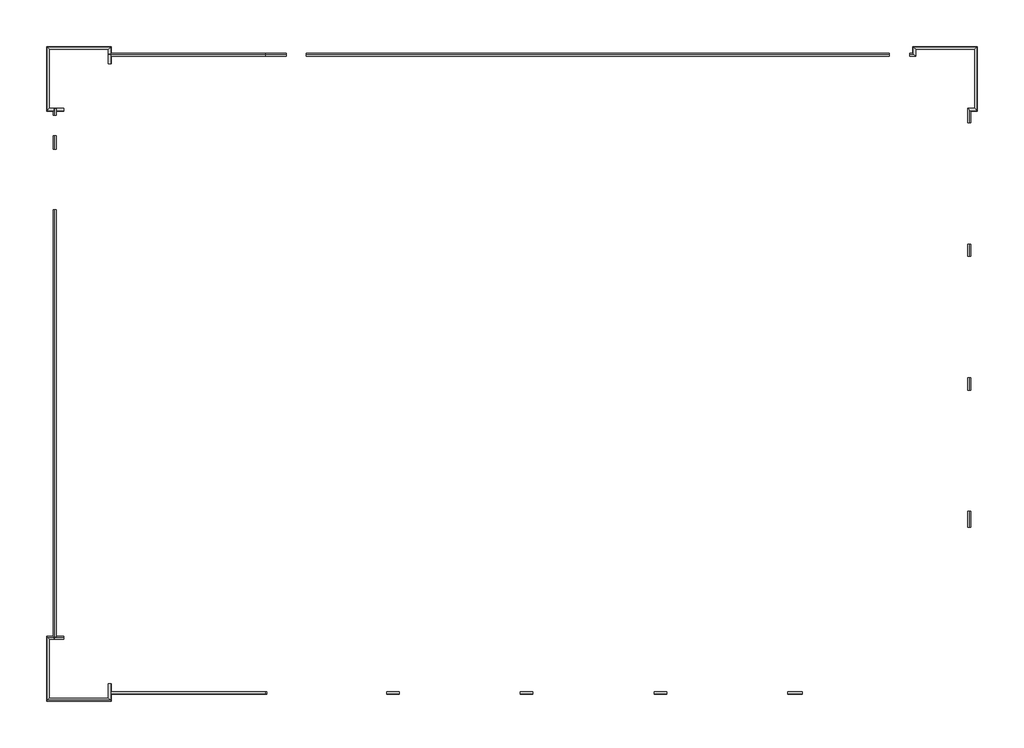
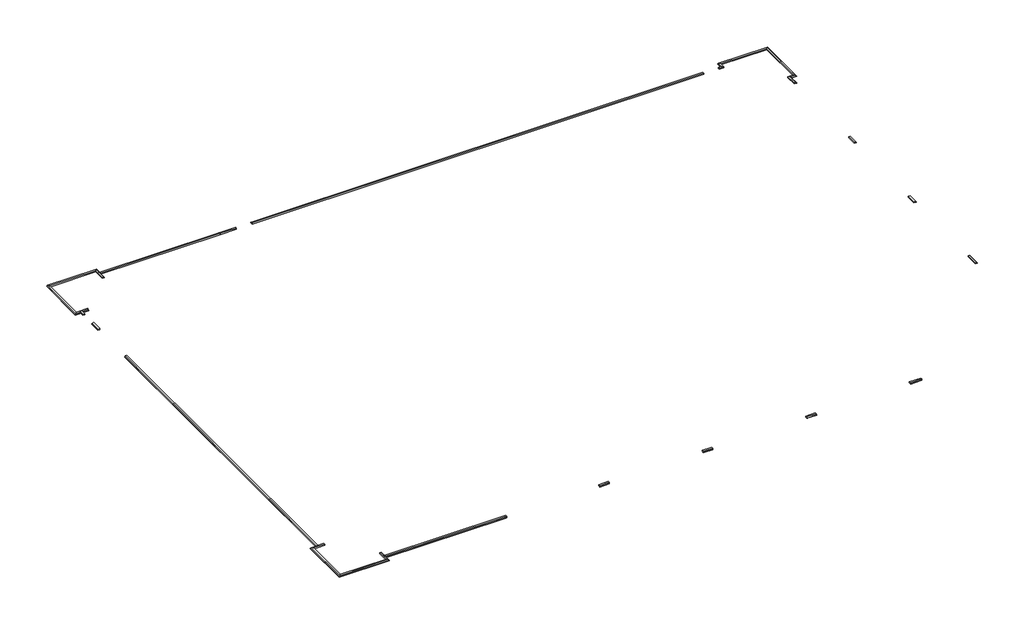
# One storey: 18 proxies.
"""IFC4 building model written with IfcOpenShell, lengths in millimetres."""

import ifcopenshell
import ifcopenshell.guid

model = None  # the IFC model being written
_history = None  # IfcOwnerHistory: only IFC2X3 demands one
_inside = {}  # id of a spatial element -> (the spatial element, [elements in it])
_under = {}  # id of a project, library or spatial element -> (it, [spatial elements below it])
_declared = {}  # id of a project -> (the project, [libraries it declares])
_typed = {}  # id of a type object -> (the type object, [elements of that type])
_made_of = {}  # id of a material, layer set ... -> (it, [elements and type objects made of it])


def new_model(schema):
    """Start an empty IFC model of exactly this schema.

    Asked for "IFC4X3", IfcOpenShell would pick the latest addendum, in which some entities
    have other attributes; the version numbers below select the first issue.
    IFC2X3 requires an IfcOwnerHistory on every rooted entity: one is made here for all.
    """
    global model, _history
    if schema == "IFC4X3":
        model = ifcopenshell.file(schema_version=(4, 3, 0, 0))
    else:
        model = ifcopenshell.file(schema=schema)
    _inside.clear()
    _under.clear()
    _declared.clear()
    _typed.clear()
    _made_of.clear()
    _history = None
    if model.schema == "IFC2X3":
        org = make("IfcOrganization", Name="unknown")
        user = make(
            "IfcPersonAndOrganization",
            ThePerson=make("IfcPerson", FamilyName="unknown"),
            TheOrganization=org,
        )
        app = make(
            "IfcApplication",
            ApplicationDeveloper=org,
            Version="unknown",
            ApplicationFullName="unknown",
            ApplicationIdentifier="unknown",
        )
        _history = make(
            "IfcOwnerHistory",
            OwningUser=user,
            OwningApplication=app,
            ChangeAction="ADDED",
            CreationDate=0,
        )
    return model


def make(cls, **values):
    """One entity of the class cls with the attributes given. An attribute that is None is left unset."""
    return model.create_entity(
        cls, **{name: value for name, value in values.items() if value is not None}
    )


def rooted(cls, **values):
    """An entity with a GlobalId (a new one), such as an element, a storey or a relation."""
    return make(cls, GlobalId=ifcopenshell.guid.new(), OwnerHistory=_history, **values)


def si_unit(unit_type, name, prefix=None):
    """IfcSIUnit, for example si_unit("LENGTHUNIT", "METRE", prefix="MILLI")."""
    return make("IfcSIUnit", UnitType=unit_type, Prefix=prefix, Name=name)


def assignment(units):
    """IfcUnitAssignment: the units of a project."""
    return None if units is None else make("IfcUnitAssignment", Units=units)


def point(xyz):
    """IfcCartesianPoint."""
    return None if xyz is None else make("IfcCartesianPoint", Coordinates=xyz)


def direction(xyz):
    """IfcDirection."""
    return None if xyz is None else make("IfcDirection", DirectionRatios=xyz)


def frame(location, z_axis=None, x_axis=None):
    """IfcAxis2Placement3D, a coordinate frame: its origin and axes. An axis left out is left unset."""
    return make(
        "IfcAxis2Placement3D",
        Location=point(location),
        Axis=direction(z_axis),
        RefDirection=direction(x_axis),
    )


def origin():
    """The frame at (0, 0, 0) with its axes left unset."""
    return frame((0.0, 0.0, 0.0))


def place(relative_to, where):
    """IfcLocalPlacement: puts the frame where relative to a parent placement (None: the world)."""
    return make(
        "IfcLocalPlacement", PlacementRelTo=relative_to, RelativePlacement=where
    )


def context(
    kind, dimensions, precision=None, world=None, true_north=None, identifier=None
):
    """IfcGeometricRepresentationContext, for example the 3D "Model" context."""
    return make(
        "IfcGeometricRepresentationContext",
        ContextIdentifier=identifier,
        ContextType=kind,
        CoordinateSpaceDimension=dimensions,
        Precision=precision,
        WorldCoordinateSystem=world,
        TrueNorth=true_north,
    )


def project(units=None, contexts=None):
    """IfcProject with its units and contexts."""
    return rooted(
        "IfcProject",
        Name="project",
        RepresentationContexts=contexts,
        UnitsInContext=assignment(units),
    )


def spatial(cls, under=None, at=None, **own):
    """A site, building, storey or space (cls), placed at a placement, below another one or the project."""
    s = rooted(cls, ObjectPlacement=at, **own)
    if under is not None:
        _under.setdefault(under.id(), (under, []))[1].append(s)
    return s


def faces_of(points, faces, orient=None, outer=None):
    """IfcFace entities. A face is a list of loops; a loop is a list of indices into points, from 0.

    orient and outer hold one flag for each loop. By default every Orientation is true, the
    first loop of a face is its IfcFaceOuterBound and the others are IfcFaceBound.
    """
    made = []
    for i, loops in enumerate(faces):
        bounds = []
        for j, loop in enumerate(loops):
            is_outer = j == 0 if outer is None else outer[i][j]
            bounds.append(
                make(
                    "IfcFaceOuterBound" if is_outer else "IfcFaceBound",
                    Bound=make("IfcPolyLoop", Polygon=[points[k] for k in loop]),
                    Orientation=True if orient is None else orient[i][j],
                )
            )
        made.append(make("IfcFace", Bounds=bounds))
    return made


def faceted_brep(points, faces, orient=None, outer=None, voids=None):
    """IfcFacetedBrep: a solid bounded by flat faces; with voids (closed shells), ...WithVoids."""
    shared = [point(p) for p in points]
    hull = make("IfcClosedShell", CfsFaces=faces_of(shared, faces, orient, outer))
    if voids is None:
        return make("IfcFacetedBrep", Outer=hull)
    return make(
        "IfcFacetedBrepWithVoids",
        Outer=hull,
        Voids=[
            make(cls, CfsFaces=faces_of(shared, fs, o, b)) for cls, fs, o, b in voids
        ],
    )


def shape(context_of_items, identifier, shape_type, items):
    """IfcShapeRepresentation: the items that make up one representation, for example the "Body"."""
    return make(
        "IfcShapeRepresentation",
        ContextOfItems=context_of_items,
        RepresentationIdentifier=identifier,
        RepresentationType=shape_type,
        Items=items,
    )


def made_of(thing, what):
    """Note that an element or type object is made of a material, layer set ...; save() writes the relation."""
    if what is not None:
        _made_of.setdefault(what.id(), (what, []))[1].append(thing)
    return thing


def element(
    cls,
    number,
    at=None,
    inside=None,
    cuts=None,
    type_object=None,
    material=None,
    context=None,
    identifier="Body",
    shape_type=None,
    held_by="IfcProductDefinitionShape",
    body=None,
    shapes=None,
    **own,
):
    """One element of the class cls, such as IfcWall. Its Tag is "e" and its number.

    at: its placement. inside: the storey or other place that contains it. cuts: it is an
    opening in that element (IfcRelVoidsElement). A single representation is given by context,
    identifier, shape_type and body (its items); several are given by shapes. held_by: the class
    of the entity that holds the representations. save() writes the other relations.
    """
    e = rooted(cls, Tag="e%d" % number, ObjectPlacement=at, **own)
    if body is not None:
        shapes = [shape(context, identifier, shape_type, body)]
    if shapes is not None:
        e.Representation = make(held_by, Representations=shapes)
    if inside is not None:
        _inside.setdefault(inside.id(), (inside, []))[1].append(e)
    if cuts is not None:
        rooted(
            "IfcRelVoidsElement", RelatingBuildingElement=cuts, RelatedOpeningElement=e
        )
    if type_object is not None:
        _typed.setdefault(type_object.id(), (type_object, []))[1].append(e)
    return made_of(e, material)


def aggregate(whole, parts):
    """IfcRelAggregates: a whole, such as a stair, and the parts it consists of."""
    return rooted("IfcRelAggregates", RelatingObject=whole, RelatedObjects=parts)


def save(model, path):
    """Write the relations noted so far, then the file.

    IfcRelAggregates (storeys below a building ...), IfcRelContainedInSpatialStructure (elements
    in a storey), IfcRelDefinesByType, IfcRelAssociatesMaterial and IfcRelDeclares: one each for
    every whole, place, type object, material and project.
    """
    for whole, parts in _under.values():
        aggregate(whole, parts)
    for where, things in _inside.values():
        rooted(
            "IfcRelContainedInSpatialStructure",
            RelatedElements=things,
            RelatingStructure=where,
        )
    for kind, things in _typed.values():
        rooted("IfcRelDefinesByType", RelatedObjects=things, RelatingType=kind)
    for what, things in _made_of.values():
        rooted("IfcRelAssociatesMaterial", RelatedObjects=things, RelatingMaterial=what)
    for by, libraries in _declared.values():
        rooted("IfcRelDeclares", RelatingContext=by, RelatedDefinitions=libraries)
    model.write(path)


model = new_model("IFC4")

# Units and contexts
model_context = context("Model", 3, world=origin())
ifc_project = project(units=[si_unit("LENGTHUNIT", "METRE", prefix="MILLI")], contexts=[model_context])

# Site, building, storey
site = spatial("IfcSite", under=ifc_project)
building = spatial("IfcBuilding", under=site)
storey = spatial("IfcBuildingStorey", under=building, Name="CMU Watertable", Elevation=914.4)

# Proxies
placement = place(None, origin())
element("IfcBuildingElementProxy", 1, Name="Wall Sweeps", at=placement, inside=storey, context=model_context, shape_type="Brep", body=[
    faceted_brep([(-20031.8727721, 14336.3436943, 984.25), (-20031.8727721, 14428.4186943, 984.25), (-20031.8727721, 14463.3436943, 939.8), (-20031.8727721, 14463.3436943, 914.4), (-20031.8727721, 14447.4686943, 914.4), (-20031.8727721, 14336.3436943, 914.4), (-12953.2102721, 14336.3436943, 984.25), (-12953.2102721, 14336.3436943, 914.4), (-12953.2102721, 14345.8686943, 914.4), (-12953.2102721, 14447.4686943, 914.4), (-12953.2102721, 14463.3436943, 914.4), (-12953.2102721, 14463.3436943, 939.8), (-12953.2102721, 14428.4186943, 984.25)], [[[0, 1, 2, 3, 4, 5]], [[6, 7, 8, 9, 10, 11, 12]], [[1, 0, 6, 12]], [[2, 1, 12, 11]], [[3, 2, 11, 10]], [[5, 4, 3, 10, 9, 8, 7]], [[0, 5, 7, 6]]]),
])
element("IfcBuildingElementProxy", 2, Name="Wall Sweeps", at=placement, inside=storey, context=model_context, shape_type="Brep", body=[
    faceted_brep([(18820.6022279, 11967.7936943, 984.25), (18912.6772279, 11875.7186943, 984.25), (18947.6022279, 11840.7936943, 939.8), (18947.6022279, 11840.7936943, 914.4), (18820.6022279, 11967.7936943, 914.4), (18820.6022279, 11321.6811943, 984.25), (18820.6022279, 11321.6811943, 914.4), (18931.7272279, 11321.6811943, 914.4), (18947.6022279, 11321.6811943, 914.4), (18947.6022279, 11321.6811943, 939.8), (18912.6772279, 11321.6811943, 984.25)], [[[0, 1, 2, 3, 4]], [[5, 6, 7, 8, 9, 10]], [[1, 0, 5, 10]], [[2, 1, 10, 9]], [[3, 2, 9, 8]], [[4, 3, 8, 7, 6]], [[0, 4, 6, 5]]]),
    faceted_brep([(18820.6022279, 5835.2811943, 984.25), (18912.6772279, 5835.2811943, 984.25), (18947.6022279, 5835.2811943, 939.8), (18947.6022279, 5835.2811943, 914.4), (18931.7272279, 5835.2811943, 914.4), (18820.6022279, 5835.2811943, 914.4), (18820.6022279, 5276.4811943, 984.25), (18820.6022279, 5276.4811943, 914.4), (18931.7272279, 5276.4811943, 914.4), (18947.6022279, 5276.4811943, 914.4), (18947.6022279, 5276.4811943, 939.8), (18912.6772279, 5276.4811943, 984.25)], [[[0, 1, 2, 3, 4, 5]], [[6, 7, 8, 9, 10, 11]], [[1, 0, 6, 11]], [[2, 1, 11, 10]], [[3, 2, 10, 9]], [[5, 4, 3, 9, 8, 7]], [[0, 5, 7, 6]]]),
    faceted_brep([(18820.6022279, -209.9188057, 984.25), (18912.6772279, -209.9188057, 984.25), (18947.6022279, -209.9188057, 939.8), (18947.6022279, -209.9188057, 914.4), (18931.7272279, -209.9188057, 914.4), (18820.6022279, -209.9188057, 914.4), (18820.6022279, -768.7188057, 984.25), (18820.6022279, -768.7188057, 914.4), (18931.7272279, -768.7188057, 914.4), (18947.6022279, -768.7188057, 914.4), (18947.6022279, -768.7188057, 939.8), (18912.6772279, -768.7188057, 984.25)], [[[0, 1, 2, 3, 4, 5]], [[6, 7, 8, 9, 10, 11]], [[1, 0, 6, 11]], [[2, 1, 11, 10]], [[3, 2, 10, 9]], [[5, 4, 3, 9, 8, 7]], [[0, 5, 7, 6]]]),
    faceted_brep([(18820.6022279, -6255.1188057, 984.25), (18912.6772279, -6255.1188057, 984.25), (18947.6022279, -6255.1188057, 939.8), (18947.6022279, -6255.1188057, 914.4), (18931.7272279, -6255.1188057, 914.4), (18820.6022279, -6255.1188057, 914.4), (18820.6022279, -6969.1417889, 984.25), (18820.6022279, -6969.1417889, 914.4), (18931.7272279, -6969.1417889, 914.4), (18947.6022279, -6969.1417889, 914.4), (18947.6022279, -6969.1417889, 939.8), (18912.6772279, -6969.1417889, 984.25)], [[[0, 1, 2, 3, 4, 5]], [[6, 7, 8, 9, 10, 11]], [[1, 0, 6, 11]], [[2, 1, 11, 10]], [[3, 2, 10, 9]], [[5, 4, 3, 9, 8, 7]], [[0, 5, 7, 6]]]),
])
element("IfcBuildingElementProxy", 3, Name="Wall Sweeps", at=placement, inside=storey, context=model_context, shape_type="Brep", body=[
    faceted_brep([(11340.2095287, -14397.4063057, 984.25), (11340.2095287, -14489.4813057, 984.25), (11340.2095287, -14524.4063057, 939.8), (11340.2095287, -14524.4063057, 914.4), (11340.2095287, -14508.5313057, 914.4), (11340.2095287, -14397.4063057, 914.4), (10678.3147279, -14397.4063057, 984.25), (10678.3147279, -14397.4063057, 914.4), (10678.3147279, -14508.5313057, 914.4), (10678.3147279, -14524.4063057, 914.4), (10678.3147279, -14524.4063057, 939.8), (10678.3147279, -14489.4813057, 984.25)], [[[0, 1, 2, 3, 4, 5]], [[6, 7, 8, 9, 10, 11]], [[1, 0, 6, 11]], [[2, 1, 11, 10]], [[3, 2, 10, 9]], [[5, 4, 3, 9, 8, 7]], [[0, 5, 7, 6]]]),
    faceted_brep([(5191.9147279, -14397.4063057, 984.25), (5191.9147279, -14489.4813057, 984.25), (5191.9147279, -14524.4063057, 939.8), (5191.9147279, -14524.4063057, 914.4), (5191.9147279, -14508.5313057, 914.4), (5191.9147279, -14397.4063057, 914.4), (4633.1147279, -14397.4063057, 984.25), (4633.1147279, -14397.4063057, 914.4), (4633.1147279, -14508.5313057, 914.4), (4633.1147279, -14524.4063057, 914.4), (4633.1147279, -14524.4063057, 939.8), (4633.1147279, -14489.4813057, 984.25)], [[[0, 1, 2, 3, 4, 5]], [[6, 7, 8, 9, 10, 11]], [[1, 0, 6, 11]], [[2, 1, 11, 10]], [[3, 2, 10, 9]], [[5, 4, 3, 9, 8, 7]], [[0, 5, 7, 6]]]),
    faceted_brep([(-853.2852721, -14397.4063057, 984.25), (-853.2852721, -14489.4813057, 984.25), (-853.2852721, -14524.4063057, 939.8), (-853.2852721, -14524.4063057, 914.4), (-853.2852721, -14508.5313057, 914.4), (-853.2852721, -14397.4063057, 914.4), (-1412.0852721, -14397.4063057, 984.25), (-1412.0852721, -14397.4063057, 914.4), (-1412.0852721, -14508.5313057, 914.4), (-1412.0852721, -14524.4063057, 914.4), (-1412.0852721, -14524.4063057, 939.8), (-1412.0852721, -14489.4813057, 984.25)], [[[0, 1, 2, 3, 4, 5]], [[6, 7, 8, 9, 10, 11]], [[1, 0, 6, 11]], [[2, 1, 11, 10]], [[3, 2, 10, 9]], [[5, 4, 3, 9, 8, 7]], [[0, 5, 7, 6]]]),
    faceted_brep([(-6898.4852721, -14397.4063057, 984.25), (-6898.4852721, -14489.4813057, 984.25), (-6898.4852721, -14524.4063057, 939.8), (-6898.4852721, -14524.4063057, 914.4), (-6898.4852721, -14508.5313057, 914.4), (-6898.4852721, -14397.4063057, 914.4), (-7457.2852721, -14397.4063057, 984.25), (-7457.2852721, -14397.4063057, 914.4), (-7457.2852721, -14508.5313057, 914.4), (-7457.2852721, -14524.4063057, 914.4), (-7457.2852721, -14524.4063057, 939.8), (-7457.2852721, -14489.4813057, 984.25)], [[[0, 1, 2, 3, 4, 5]], [[6, 7, 8, 9, 10, 11]], [[1, 0, 6, 11]], [[2, 1, 11, 10]], [[3, 2, 10, 9]], [[5, 4, 3, 9, 8, 7]], [[0, 5, 7, 6]]]),
    faceted_brep([(-12883.3602721, -14397.4063057, 984.25), (-12883.3602721, -14489.4813057, 984.25), (-12883.3602721, -14524.4063057, 939.8), (-12883.3602721, -14524.4063057, 914.4), (-12883.3602721, -14508.5313057, 914.4), (-12883.3602721, -14397.4063057, 914.4), (-12953.2102721, -14397.4063057, 984.25), (-12953.2102721, -14397.4063057, 914.4), (-12953.2102721, -14508.5313057, 914.4), (-12953.2102721, -14524.4063057, 914.4), (-12953.2102721, -14524.4063057, 939.8), (-12953.2102721, -14489.4813057, 984.25)], [[[0, 1, 2, 3, 4, 5]], [[6, 7, 8, 9, 10, 11]], [[1, 0, 6, 11]], [[2, 1, 11, 10]], [[3, 2, 10, 9]], [[5, 4, 3, 9, 8, 7]], [[0, 5, 7, 6]]]),
])
element("IfcBuildingElementProxy", 4, Name="Wall Sweeps", at=placement, inside=storey, context=model_context, shape_type="Brep", body=[
    faceted_brep([(-11091.0727721, 14336.3436943, 984.25), (-11091.0727721, 14428.4186943, 984.25), (-11091.0727721, 14463.3436943, 939.8), (-11091.0727721, 14463.3436943, 914.4), (-11091.0727721, 14447.4686943, 914.4), (-11091.0727721, 14336.3436943, 914.4), (15274.1272279, 14336.3436943, 984.25), (15274.1272279, 14336.3436943, 914.4), (15274.1272279, 14447.4686943, 914.4), (15274.1272279, 14463.3436943, 914.4), (15274.1272279, 14463.3436943, 939.8), (15274.1272279, 14428.4186943, 984.25)], [[[0, 1, 2, 3, 4, 5]], [[6, 7, 8, 9, 10, 11]], [[1, 0, 6, 11]], [[2, 1, 11, 10]], [[3, 2, 10, 9]], [[5, 4, 3, 9, 8, 7]], [[0, 5, 7, 6]]]),
    faceted_brep([(16188.5272279, 14336.3436943, 984.25), (16188.5272279, 14428.4186943, 984.25), (16188.5272279, 14463.3436943, 939.8), (16188.5272279, 14463.3436943, 914.4), (16188.5272279, 14447.4686943, 914.4), (16188.5272279, 14336.3436943, 914.4), (16452.0522279, 14336.3436943, 984.25), (16452.0522279, 14336.3436943, 914.4), (16325.0522279, 14463.3436943, 914.4), (16325.0522279, 14463.3436943, 939.8), (16359.9772279, 14428.4186943, 984.25)], [[[0, 1, 2, 3, 4, 5]], [[6, 7, 8, 9, 10]], [[1, 0, 6, 10]], [[2, 1, 10, 9]], [[3, 2, 9, 8]], [[5, 4, 3, 8, 7]], [[0, 5, 7, 6]]]),
    faceted_brep([(-12953.2102721, 14336.3436943, 984.25), (-12953.2102721, 14428.4186943, 984.25), (-12953.2102721, 14463.3436943, 939.8), (-12953.2102721, 14463.3436943, 914.4), (-12953.2102721, 14447.4686943, 914.4), (-12953.2102721, 14345.8686943, 914.4), (-12953.2102721, 14336.3436943, 914.4), (-12005.4727721, 14336.3436943, 984.25), (-12005.4727721, 14336.3436943, 914.4), (-12005.4727721, 14447.4686943, 914.4), (-12005.4727721, 14463.3436943, 914.4), (-12005.4727721, 14463.3436943, 939.8), (-12005.4727721, 14428.4186943, 984.25)], [[[0, 1, 2, 3, 4, 5, 6]], [[7, 8, 9, 10, 11, 12]], [[1, 0, 7, 12]], [[2, 1, 12, 11]], [[3, 2, 11, 10]], [[6, 5, 4, 3, 10, 9, 8]], [[0, 6, 8, 7]]]),
])
element("IfcBuildingElementProxy", 5, Name="Wall Sweeps", at=placement, inside=storey, context=model_context, shape_type="Brep", body=[
    faceted_brep([(-12953.2102721, -14397.4063057, 984.25), (-12953.2102721, -14489.4813057, 984.25), (-12953.2102721, -14524.4063057, 939.8), (-12953.2102721, -14524.4063057, 914.4), (-12953.2102721, -14508.5313057, 914.4), (-12953.2102721, -14406.9313057, 914.4), (-12953.2102721, -14397.4063057, 914.4), (-20031.8727721, -14397.4063057, 984.25), (-20031.8727721, -14397.4063057, 914.4), (-20031.8727721, -14508.5313057, 914.4), (-20031.8727721, -14524.4063057, 914.4), (-20031.8727721, -14524.4063057, 939.8), (-20031.8727721, -14489.4813057, 984.25)], [[[0, 1, 2, 3, 4, 5, 6]], [[7, 8, 9, 10, 11, 12]], [[1, 0, 7, 12]], [[2, 1, 12, 11]], [[3, 2, 11, 10]], [[6, 5, 4, 3, 10, 9, 8]], [[0, 6, 8, 7]]]),
])
element("IfcBuildingElementProxy", 6, Name="Wall Sweeps", at=placement, inside=storey, context=model_context, shape_type="Brep", body=[
    faceted_brep([(-20041.3977721, 13993.4436943, 984.25), (-20041.3977721, 13993.4436943, 914.4), (-19930.2727721, 13993.4436943, 914.4), (-19914.3977721, 13993.4436943, 914.4), (-19914.3977721, 13993.4436943, 939.8), (-19949.3227721, 13993.4436943, 984.25), (-20041.3977721, 14641.1436943, 984.25), (-19949.3227721, 14733.2186943, 984.25), (-19914.3977721, 14768.1436943, 939.8), (-19914.3977721, 14768.1436943, 914.4), (-20041.3977721, 14641.1436943, 914.4)], [[[0, 1, 2, 3, 4, 5]], [[6, 7, 8, 9, 10]], [[1, 0, 6, 10]], [[3, 2, 1, 10, 9]], [[4, 3, 9, 8]], [[5, 4, 8, 7]], [[0, 5, 7, 6]]]),
])
element("IfcBuildingElementProxy", 7, Name="Wall Sweeps", at=placement, inside=storey, context=model_context, shape_type="Brep", body=[
    faceted_brep([(-20041.3977721, 14641.1436943, 984.25), (-20041.3977721, 14641.1436943, 914.4), (-19914.3977721, 14768.1436943, 914.4), (-19914.3977721, 14768.1436943, 939.8), (-19949.3227721, 14733.2186943, 984.25), (-22714.7477721, 14641.1436943, 984.25), (-22806.8227721, 14733.2186943, 984.25), (-22841.7477721, 14768.1436943, 939.8), (-22841.7477721, 14768.1436943, 914.4), (-22714.7477721, 14641.1436943, 914.4)], [[[0, 1, 2, 3, 4]], [[5, 6, 7, 8, 9]], [[1, 0, 5, 9]], [[2, 1, 9, 8]], [[3, 2, 8, 7]], [[4, 3, 7, 6]], [[0, 4, 6, 5]]]),
])
element("IfcBuildingElementProxy", 8, Name="Wall Sweeps", at=placement, inside=storey, context=model_context, shape_type="Brep", body=[
    faceted_brep([(-22714.7477721, 14641.1436943, 984.25), (-22714.7477721, 14641.1436943, 914.4), (-22841.7477721, 14768.1436943, 914.4), (-22841.7477721, 14768.1436943, 939.8), (-22806.8227721, 14733.2186943, 984.25), (-22714.7477721, 11967.7936943, 984.25), (-22806.8227721, 11875.7186943, 984.25), (-22841.7477721, 11840.7936943, 939.8), (-22841.7477721, 11840.7936943, 914.4), (-22714.7477721, 11967.7936943, 914.4)], [[[0, 1, 2, 3, 4]], [[5, 6, 7, 8, 9]], [[1, 0, 5, 9]], [[2, 1, 9, 8]], [[3, 2, 8, 7]], [[4, 3, 7, 6]], [[0, 4, 6, 5]]]),
])
element("IfcBuildingElementProxy", 9, Name="Wall Sweeps", at=placement, inside=storey, context=model_context, shape_type="Brep", body=[
    faceted_brep([(-22714.7477721, 11967.7936943, 984.25), (-22714.7477721, 11967.7936943, 914.4), (-22841.7477721, 11840.7936943, 914.4), (-22841.7477721, 11840.7936943, 939.8), (-22806.8227721, 11875.7186943, 984.25), (-22067.0477721, 11967.7936943, 984.25), (-22067.0477721, 11875.7186943, 984.25), (-22067.0477721, 11840.7936943, 939.8), (-22067.0477721, 11840.7936943, 914.4), (-22067.0477721, 11856.6686943, 914.4), (-22067.0477721, 11967.7936943, 914.4)], [[[0, 1, 2, 3, 4]], [[5, 6, 7, 8, 9, 10]], [[1, 0, 5, 10]], [[2, 1, 10, 9, 8]], [[3, 2, 8, 7]], [[4, 3, 7, 6]], [[0, 4, 6, 5]]]),
])
element("IfcBuildingElementProxy", 10, Name="Wall Sweeps", at=placement, inside=storey, context=model_context, shape_type="Brep", body=[
    faceted_brep([(-20041.3977721, -14054.5063057, 984.25), (-19949.3227721, -14054.5063057, 984.25), (-19914.3977721, -14054.5063057, 939.8), (-19914.3977721, -14054.5063057, 914.4), (-19930.2727721, -14054.5063057, 914.4), (-20041.3977721, -14054.5063057, 914.4), (-20041.3977721, -14702.2063057, 984.25), (-20041.3977721, -14702.2063057, 914.4), (-19914.3977721, -14829.2063057, 914.4), (-19914.3977721, -14829.2063057, 939.8), (-19949.3227721, -14794.2813057, 984.25)], [[[0, 1, 2, 3, 4, 5]], [[6, 7, 8, 9, 10]], [[1, 0, 6, 10]], [[2, 1, 10, 9]], [[3, 2, 9, 8]], [[5, 4, 3, 8, 7]], [[0, 5, 7, 6]]]),
])
element("IfcBuildingElementProxy", 11, Name="Wall Sweeps", at=placement, inside=storey, context=model_context, shape_type="Brep", body=[
    faceted_brep([(-20041.3977721, -14702.2063057, 984.25), (-19949.3227721, -14794.2813057, 984.25), (-19914.3977721, -14829.2063057, 939.8), (-19914.3977721, -14829.2063057, 914.4), (-20041.3977721, -14702.2063057, 914.4), (-22714.7477721, -14702.2063057, 984.25), (-22714.7477721, -14702.2063057, 914.4), (-22841.7477721, -14829.2063057, 914.4), (-22841.7477721, -14829.2063057, 939.8), (-22806.8227721, -14794.2813057, 984.25)], [[[0, 1, 2, 3, 4]], [[5, 6, 7, 8, 9]], [[1, 0, 5, 9]], [[2, 1, 9, 8]], [[3, 2, 8, 7]], [[4, 3, 7, 6]], [[0, 4, 6, 5]]]),
])
element("IfcBuildingElementProxy", 12, Name="Wall Sweeps", at=placement, inside=storey, context=model_context, shape_type="Brep", body=[
    faceted_brep([(-22714.7477721, -14702.2063057, 984.25), (-22806.8227721, -14794.2813057, 984.25), (-22841.7477721, -14829.2063057, 939.8), (-22841.7477721, -14829.2063057, 914.4), (-22714.7477721, -14702.2063057, 914.4), (-22714.7477721, -12028.8563057, 984.25), (-22714.7477721, -12028.8563057, 914.4), (-22841.7477721, -11901.8563057, 914.4), (-22841.7477721, -11901.8563057, 939.8), (-22806.8227721, -11936.7813057, 984.25)], [[[0, 1, 2, 3, 4]], [[5, 6, 7, 8, 9]], [[1, 0, 5, 9]], [[2, 1, 9, 8]], [[3, 2, 8, 7]], [[4, 3, 7, 6]], [[0, 4, 6, 5]]]),
])
element("IfcBuildingElementProxy", 13, Name="Wall Sweeps", at=placement, inside=storey, context=model_context, shape_type="Brep", body=[
    faceted_brep([(-22714.7477721, -12028.8563057, 984.25), (-22806.8227721, -11936.7813057, 984.25), (-22841.7477721, -11901.8563057, 939.8), (-22841.7477721, -11901.8563057, 914.4), (-22714.7477721, -12028.8563057, 914.4), (-22067.0477721, -12028.8563057, 984.25), (-22067.0477721, -12028.8563057, 914.4), (-22067.0477721, -11917.7313057, 914.4), (-22067.0477721, -11901.8563057, 914.4), (-22067.0477721, -11901.8563057, 939.8), (-22067.0477721, -11936.7813057, 984.25)], [[[0, 1, 2, 3, 4]], [[5, 6, 7, 8, 9, 10]], [[1, 0, 5, 10]], [[2, 1, 10, 9]], [[3, 2, 9, 8]], [[4, 3, 8, 7, 6]], [[0, 4, 6, 5]]]),
])
element("IfcBuildingElementProxy", 14, Name="Wall Sweeps", at=placement, inside=storey, context=model_context, shape_type="Brep", body=[
    faceted_brep([(16452.0522279, 14336.3436943, 984.25), (16359.9772279, 14428.4186943, 984.25), (16325.0522279, 14463.3436943, 939.8), (16325.0522279, 14463.3436943, 914.4), (16452.0522279, 14336.3436943, 914.4), (16452.0522279, 14641.1436943, 984.25), (16452.0522279, 14641.1436943, 914.4), (16325.0522279, 14768.1436943, 914.4), (16325.0522279, 14768.1436943, 939.8), (16359.9772279, 14733.2186943, 984.25)], [[[0, 1, 2, 3, 4]], [[5, 6, 7, 8, 9]], [[1, 0, 5, 9]], [[2, 1, 9, 8]], [[3, 2, 8, 7]], [[4, 3, 7, 6]], [[0, 4, 6, 5]]]),
])
element("IfcBuildingElementProxy", 15, Name="Wall Sweeps", at=placement, inside=storey, context=model_context, shape_type="Brep", body=[
    faceted_brep([(16452.0522279, 14641.1436943, 984.25), (16359.9772279, 14733.2186943, 984.25), (16325.0522279, 14768.1436943, 939.8), (16325.0522279, 14768.1436943, 914.4), (16452.0522279, 14641.1436943, 914.4), (19125.4022279, 14641.1436943, 984.25), (19125.4022279, 14641.1436943, 914.4), (19252.4022279, 14768.1436943, 914.4), (19252.4022279, 14768.1436943, 939.8), (19217.4772279, 14733.2186943, 984.25)], [[[0, 1, 2, 3, 4]], [[5, 6, 7, 8, 9]], [[1, 0, 5, 9]], [[2, 1, 9, 8]], [[3, 2, 8, 7]], [[4, 3, 7, 6]], [[0, 4, 6, 5]]]),
])
element("IfcBuildingElementProxy", 16, Name="Wall Sweeps", at=placement, inside=storey, context=model_context, shape_type="Brep", body=[
    faceted_brep([(19125.4022279, 14641.1436943, 984.25), (19217.4772279, 14733.2186943, 984.25), (19252.4022279, 14768.1436943, 939.8), (19252.4022279, 14768.1436943, 914.4), (19125.4022279, 14641.1436943, 914.4), (19125.4022279, 11967.7936943, 984.25), (19125.4022279, 11967.7936943, 914.4), (19252.4022279, 11840.7936943, 914.4), (19252.4022279, 11840.7936943, 939.8), (19217.4772279, 11875.7186943, 984.25)], [[[0, 1, 2, 3, 4]], [[5, 6, 7, 8, 9]], [[1, 0, 5, 9]], [[2, 1, 9, 8]], [[3, 2, 8, 7]], [[4, 3, 7, 6]], [[0, 4, 6, 5]]]),
])
element("IfcBuildingElementProxy", 17, Name="Wall Sweeps", at=placement, inside=storey, context=model_context, shape_type="Brep", body=[
    faceted_brep([(19125.4022279, 11967.7936943, 984.25), (19217.4772279, 11875.7186943, 984.25), (19252.4022279, 11840.7936943, 939.8), (19252.4022279, 11840.7936943, 914.4), (19125.4022279, 11967.7936943, 914.4), (18820.6022279, 11967.7936943, 984.25), (18820.6022279, 11967.7936943, 914.4), (18947.6022279, 11840.7936943, 914.4), (18947.6022279, 11840.7936943, 939.8), (18912.6772279, 11875.7186943, 984.25)], [[[0, 1, 2, 3, 4]], [[5, 6, 7, 8, 9]], [[1, 0, 5, 9]], [[2, 1, 9, 8]], [[3, 2, 8, 7]], [[4, 3, 7, 6]], [[0, 4, 6, 5]]]),
])
element("IfcBuildingElementProxy", 18, Name="Wall Sweeps", at=placement, inside=storey, context=model_context, shape_type="Brep", body=[
    faceted_brep([(-22409.9477721, -12019.3313057, 984.25), (-22502.0227721, -12019.3313057, 984.25), (-22536.9477721, -12019.3313057, 939.8), (-22536.9477721, -12019.3313057, 914.4), (-22521.0727721, -12019.3313057, 914.4), (-22409.9477721, -12019.3313057, 914.4), (-22409.9477721, 7386.2686943, 984.25), (-22409.9477721, 7386.2686943, 914.4), (-22521.0727721, 7386.2686943, 914.4), (-22536.9477721, 7386.2686943, 914.4), (-22536.9477721, 7386.2686943, 939.8), (-22502.0227721, 7386.2686943, 984.25)], [[[0, 1, 2, 3, 4, 5]], [[6, 7, 8, 9, 10, 11]], [[1, 0, 6, 11]], [[2, 1, 11, 10]], [[3, 2, 10, 9]], [[5, 4, 3, 9, 8, 7]], [[0, 5, 7, 6]]]),
    faceted_brep([(-22409.9477721, 10129.4686943, 984.25), (-22502.0227721, 10129.4686943, 984.25), (-22536.9477721, 10129.4686943, 939.8), (-22536.9477721, 10129.4686943, 914.4), (-22521.0727721, 10129.4686943, 914.4), (-22409.9477721, 10129.4686943, 914.4), (-22409.9477721, 10739.0686943, 984.25), (-22409.9477721, 10739.0686943, 914.4), (-22521.0727721, 10739.0686943, 914.4), (-22536.9477721, 10739.0686943, 914.4), (-22536.9477721, 10739.0686943, 939.8), (-22502.0227721, 10739.0686943, 984.25)], [[[0, 1, 2, 3, 4, 5]], [[6, 7, 8, 9, 10, 11]], [[1, 0, 6, 11]], [[2, 1, 11, 10]], [[3, 2, 10, 9]], [[5, 4, 3, 9, 8, 7]], [[0, 5, 7, 6]]]),
    faceted_brep([(-22409.9477721, 11653.4686943, 984.25), (-22502.0227721, 11653.4686943, 984.25), (-22536.9477721, 11653.4686943, 939.8), (-22536.9477721, 11653.4686943, 914.4), (-22521.0727721, 11653.4686943, 914.4), (-22409.9477721, 11653.4686943, 914.4), (-22409.9477721, 11958.2686943, 984.25), (-22409.9477721, 11958.2686943, 914.4), (-22521.0727721, 11958.2686943, 914.4), (-22536.9477721, 11958.2686943, 914.4), (-22536.9477721, 11958.2686943, 939.8), (-22502.0227721, 11958.2686943, 984.25)], [[[0, 1, 2, 3, 4, 5]], [[6, 7, 8, 9, 10, 11]], [[1, 0, 6, 11]], [[2, 1, 11, 10]], [[3, 2, 10, 9]], [[5, 4, 3, 9, 8, 7]], [[0, 5, 7, 6]]]),
])

save(model, "model.ifc")
